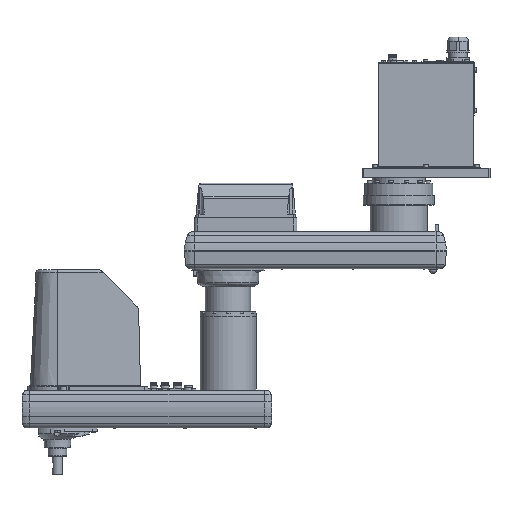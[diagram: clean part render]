
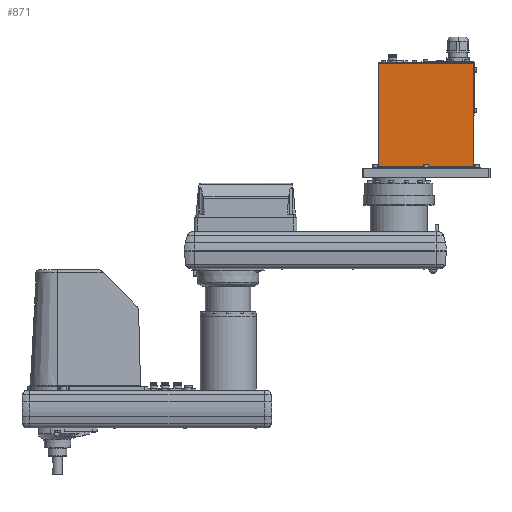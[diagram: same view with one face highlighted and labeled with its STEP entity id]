
A CAD part, top view. The second image highlights one B-rep face of the part: STEP entity #871.
In plain terms, the highlighted planar face has unit normal (0, 0, 1).
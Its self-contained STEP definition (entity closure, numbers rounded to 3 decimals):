
#871 = ADVANCED_FACE( '', ( #3695 ), #3696, .F. );
#3695 = FACE_OUTER_BOUND( '', #8211, .T. );
#3696 = PLANE( '', #8212 );
#8211 = EDGE_LOOP( '', ( #16424, #16425, #16426, #16427 ) );
#8212 = AXIS2_PLACEMENT_3D( '', #16428, #16429, #16430 );
#16424 = ORIENTED_EDGE( '', *, *, #29354, .F. );
#16425 = ORIENTED_EDGE( '', *, *, #29527, .F. );
#16426 = ORIENTED_EDGE( '', *, *, #29528, .F. );
#16427 = ORIENTED_EDGE( '', *, *, #29529, .T. );
#16428 = CARTESIAN_POINT( '', ( -33.4, 168., 60. ) );
#16429 = DIRECTION( '', ( 0., 0., -1. ) );
#16430 = DIRECTION( '', ( 0., 1., 0. ) );
#29354 = EDGE_CURVE( '', #35579, #35581, #35582, .T. );
#29527 = EDGE_CURVE( '', #35846, #35579, #35848, .T. );
#29528 = EDGE_CURVE( '', #35849, #35846, #35850, .T. );
#29529 = EDGE_CURVE( '', #35849, #35581, #35851, .T. );
#35579 = VERTEX_POINT( '', #44828 );
#35581 = VERTEX_POINT( '', #44831 );
#35582 = LINE( '', #44832, #44833 );
#35846 = VERTEX_POINT( '', #45231 );
#35848 = LINE( '', #45233, #45234 );
#35849 = VERTEX_POINT( '', #45235 );
#35850 = LINE( '', #45236, #45237 );
#35851 = LINE( '', #45238, #45239 );
#44828 = CARTESIAN_POINT( '', ( 121., 168., 60. ) );
#44831 = CARTESIAN_POINT( '', ( 121., 2., 60. ) );
#44832 = CARTESIAN_POINT( '', ( 121., 85., 60. ) );
#44833 = VECTOR( '', #57876, 1. );
#45231 = CARTESIAN_POINT( '', ( -33., 168., 60. ) );
#45233 = CARTESIAN_POINT( '', ( -33.4, 168., 60. ) );
#45234 = VECTOR( '', #58125, 1. );
#45235 = CARTESIAN_POINT( '', ( -33., 2., 60. ) );
#45236 = CARTESIAN_POINT( '', ( -33., 168., 60. ) );
#45237 = VECTOR( '', #58126, 1. );
#45238 = CARTESIAN_POINT( '', ( -33.4, 2., 60. ) );
#45239 = VECTOR( '', #58127, 1. );
#57876 = DIRECTION( '', ( 0., -1., 0. ) );
#58125 = DIRECTION( '', ( 1., 0., 0. ) );
#58126 = DIRECTION( '', ( 0., 1., 0. ) );
#58127 = DIRECTION( '', ( 1., 0., 0. ) );
